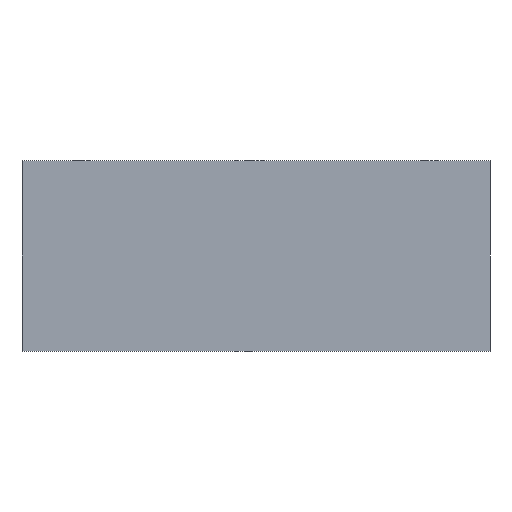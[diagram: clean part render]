
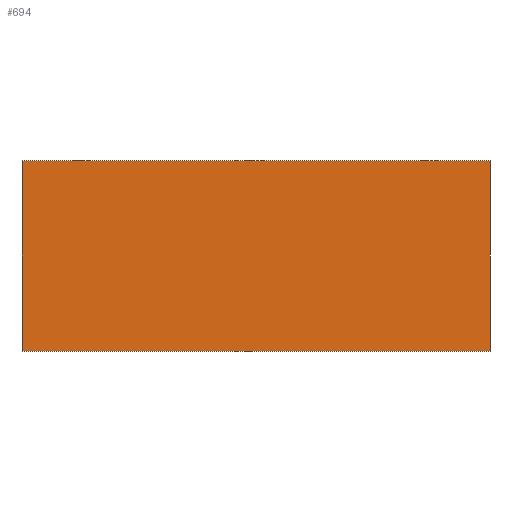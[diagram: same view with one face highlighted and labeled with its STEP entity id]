
A CAD part, left-side view. The second image highlights one B-rep face of the part: STEP entity #694.
In plain terms, the highlighted planar face has unit normal (-1, 0, 0).
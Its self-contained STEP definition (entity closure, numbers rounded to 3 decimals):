
#38 = CARTESIAN_POINT ( 'NONE',  ( -98., 60.5, 0. ) ) ;
#111 = VECTOR ( 'NONE', #366, 1000. ) ;
#132 = ORIENTED_EDGE ( 'NONE', *, *, #834, .F. ) ;
#239 = ORIENTED_EDGE ( 'NONE', *, *, #856, .T. ) ;
#366 = DIRECTION ( 'NONE',  ( 0., 0., -1. ) ) ;
#405 = VECTOR ( 'NONE', #896, 1000. ) ;
#476 = VECTOR ( 'NONE', #1938, 1000. ) ;
#502 = LINE ( 'NONE', #1818, #763 ) ;
#554 = VERTEX_POINT ( 'NONE', #2041 ) ;
#575 = FACE_OUTER_BOUND ( 'NONE', #2289, .T. ) ;
#611 = VERTEX_POINT ( 'NONE', #1181 ) ;
#637 = AXIS2_PLACEMENT_3D ( 'NONE', #1316, #1325, #1116 ) ;
#694 = ADVANCED_FACE ( 'NONE', ( #575 ), #1101, .F. ) ;
#740 = VERTEX_POINT ( 'NONE', #1124 ) ;
#763 = VECTOR ( 'NONE', #784, 1000. ) ;
#784 = DIRECTION ( 'NONE',  ( 0., 0., -1. ) ) ;
#834 = EDGE_CURVE ( 'NONE', #2501, #554, #2541, .T. ) ;
#856 = EDGE_CURVE ( 'NONE', #611, #740, #1167, .T. ) ;
#896 = DIRECTION ( 'NONE',  ( 0., -1., 0. ) ) ;
#1085 = CARTESIAN_POINT ( 'NONE',  ( -98., 60.5, 49.3 ) ) ;
#1101 = PLANE ( 'NONE',  #637 ) ;
#1116 = DIRECTION ( 'NONE',  ( 0., 0., -1. ) ) ;
#1124 = CARTESIAN_POINT ( 'NONE',  ( -98., -60.5, 0. ) ) ;
#1167 = LINE ( 'NONE', #38, #476 ) ;
#1178 = CARTESIAN_POINT ( 'NONE',  ( -98., -60.5, 49.3 ) ) ;
#1181 = CARTESIAN_POINT ( 'NONE',  ( -98., 60.5, 0. ) ) ;
#1316 = CARTESIAN_POINT ( 'NONE',  ( -98., 60.5, 49.3 ) ) ;
#1325 = DIRECTION ( 'NONE',  ( 1., 0., 0. ) ) ;
#1643 = EDGE_CURVE ( 'NONE', #2501, #611, #502, .T. ) ;
#1818 = CARTESIAN_POINT ( 'NONE',  ( -98., 60.5, 49.3 ) ) ;
#1938 = DIRECTION ( 'NONE',  ( 0., -1., 0. ) ) ;
#2041 = CARTESIAN_POINT ( 'NONE',  ( -98., -60.5, 49.3 ) ) ;
#2056 = LINE ( 'NONE', #1178, #111 ) ;
#2289 = EDGE_LOOP ( 'NONE', ( #239, #2629, #132, #2568 ) ) ;
#2488 = EDGE_CURVE ( 'NONE', #554, #740, #2056, .T. ) ;
#2501 = VERTEX_POINT ( 'NONE', #2602 ) ;
#2541 = LINE ( 'NONE', #1085, #405 ) ;
#2568 = ORIENTED_EDGE ( 'NONE', *, *, #1643, .T. ) ;
#2602 = CARTESIAN_POINT ( 'NONE',  ( -98., 60.5, 49.3 ) ) ;
#2629 = ORIENTED_EDGE ( 'NONE', *, *, #2488, .F. ) ;
